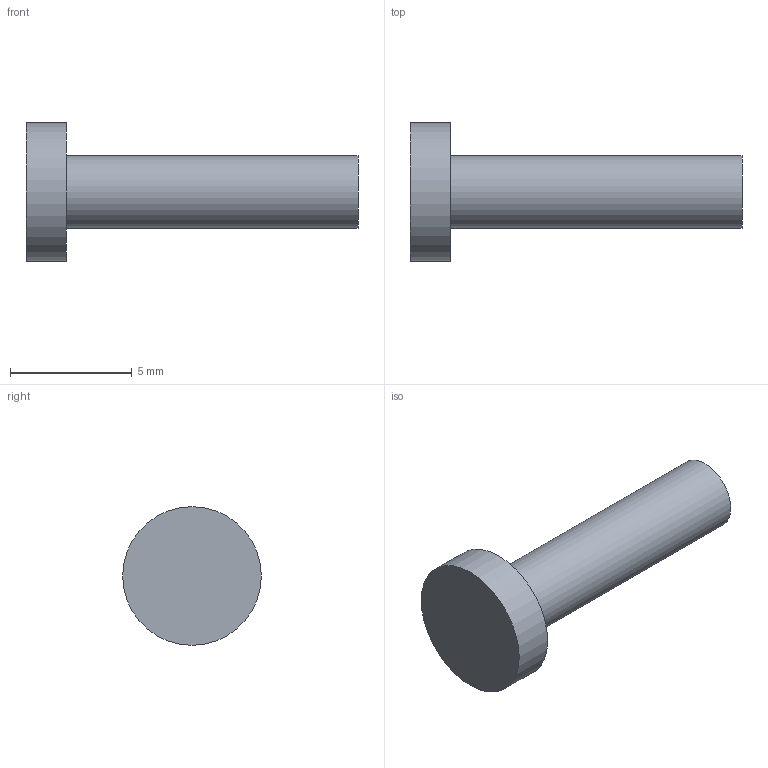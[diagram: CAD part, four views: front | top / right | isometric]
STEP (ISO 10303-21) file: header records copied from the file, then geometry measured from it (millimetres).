
FILE_DESCRIPTION(('Open CASCADE Model'),'2;1');
FILE_NAME('Open CASCADE Shape Model','2026-11-24T19:57:38',('Author'),( 'Open CASCADE'),'Open CASCADE STEP processor 7.8','Open CASCADE 7.8' ,'Unknown');
FILE_SCHEMA(('AUTOMOTIVE_DESIGN { 1 0 10303 214 1 1 1 1 }'));
Length unit declared in the file: millimetre
Products named in the file (1): Open CASCADE STEP translator 7.8 15
Bounding box: 13.65 x 5.7 x 5.7 mm (x, y, z)
Volume: 126.9 mm3; surface area: 193.7 mm2
Topology: 1 solids, 1 shells, 5 faces, 6 edges, 4 vertices
Faces by surface type: plane 3, cylinder 2
Full cylindrical faces by diameter (mm): 3 x1, 5.7 x1
Entity records: 190 total; most frequent: DIRECTION 32, CARTESIAN_POINT 30, ORIENTED_EDGE 12, PCURVE 12, DEFINITIONAL_REPRESENTATION 12, AXIS2_PLACEMENT_3D 10, CIRCLE 8, LINE 8
